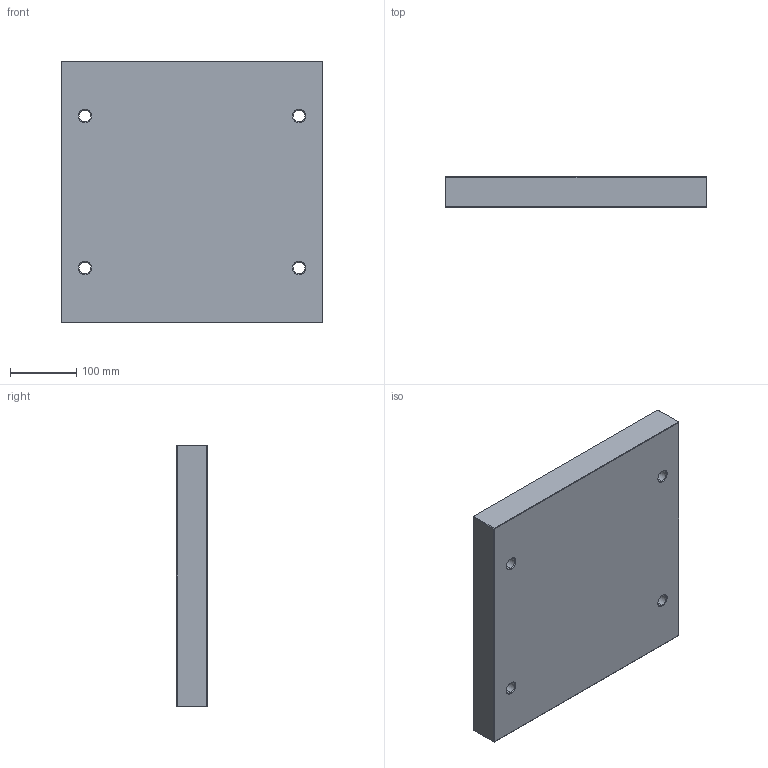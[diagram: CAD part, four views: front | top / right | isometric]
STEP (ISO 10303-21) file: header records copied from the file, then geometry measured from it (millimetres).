
FILE_DESCRIPTION (( 'STEP AP214' ), '1' );
FILE_NAME ('PBAS-396x396x46.STEP', '2020-03-24T15:57:32', ( 'August' ), ( '' ), 'SwSTEP 2.0', 'SolidWorks 2018', '' );
FILE_SCHEMA (( 'AUTOMOTIVE_DESIGN' ));
Length unit declared in the file: millimetre
Products named in the file (1): PBAS-396x396x46
Bounding box: 396 x 46 x 396 mm (x, y, z)
Volume: 7144853.1 mm3; surface area: 394394.7 mm2
Topology: 1 solids, 1 shells, 62 faces, 128 edges, 72 vertices
Faces by surface type: plane 30, cone 16, cylinder 16
Entity records: 1650 total; most frequent: DIRECTION 302, CARTESIAN_POINT 263, ORIENTED_EDGE 256, EDGE_CURVE 128, AXIS2_PLACEMENT_3D 111, LINE 80, VECTOR 80, EDGE_LOOP 74
